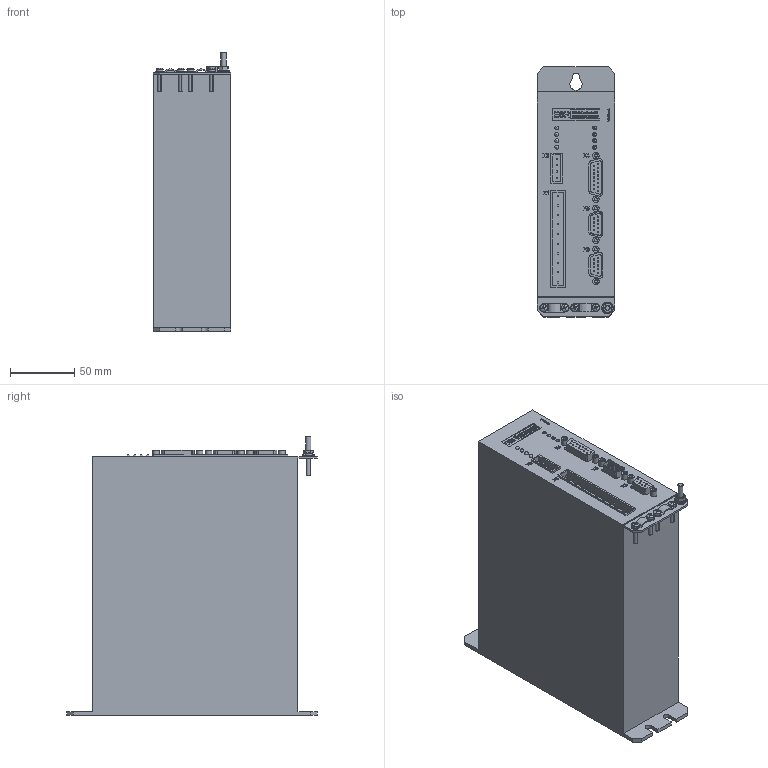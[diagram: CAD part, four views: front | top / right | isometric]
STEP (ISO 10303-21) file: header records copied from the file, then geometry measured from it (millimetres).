
FILE_DESCRIPTION(/* description */ ('Alibre Inc.'),/* implementation_level */ '2;1');
FILE_NAME(/* name */ 'export0',/* time_stamp */ '2011-02-17T08:20:00+01:00',/* author */ (''),/* organization */ ('ESR Pollmeier GmbH'),/* preprocessor_version */ 'ST-DEVELOPER v10',/* originating_system */ 'Alibre',/* authorisation */ '');
FILE_SCHEMA (('CONFIG_CONTROL_DESIGN'));
Length unit declared in the file: centimetre
Products named in the file (7): ID_1; ID_2; BÜLTE | 1254; BÜLTE | 9344; BÜLTE | rundkopfschrauben_M3_16; ID_3
Bounding box: 60 x 195 x 217 mm (x, y, z)
Volume: 1878.8 mm3; surface area: 122676.1 mm2
Topology: 22 solids, 29 shells, 1572 faces, 4075 edges, 2703 vertices
Faces by surface type: plane 830, bspline 542, cylinder 159, cone 29, sphere 12
Full cylindrical faces by diameter (mm): 1 x33, 2.5 x16, 3 x4, 3.1 x4, 4 x1, 5 x12, 6 x1
Entity records: 45175 total; most frequent: CARTESIAN_POINT 12730, ORIENTED_EDGE 7554, DIRECTION 4055, EDGE_CURVE 3765, VERTEX_POINT 2545, VECTOR 2340, LINE 2340, EDGE_LOOP 1740
